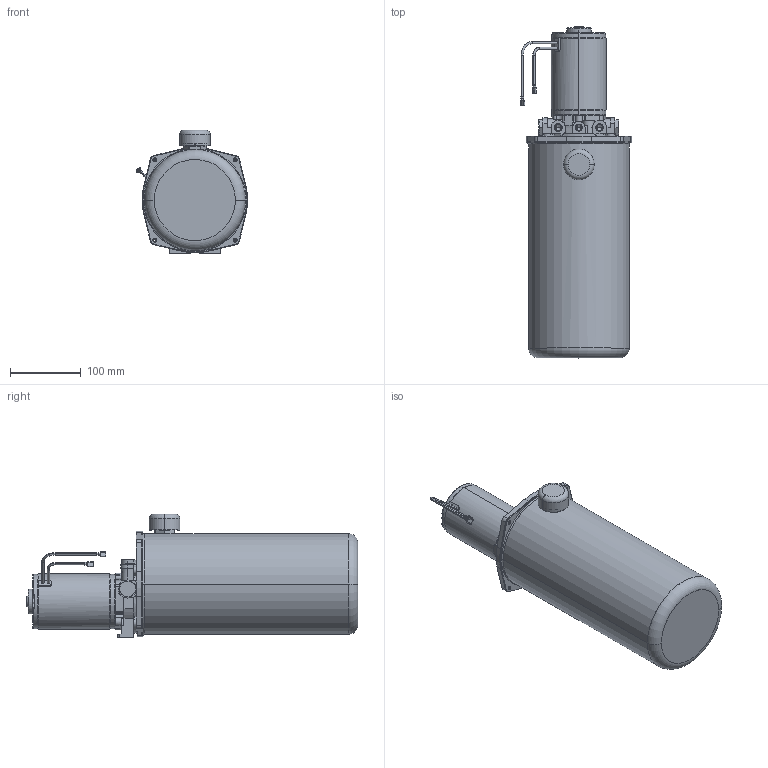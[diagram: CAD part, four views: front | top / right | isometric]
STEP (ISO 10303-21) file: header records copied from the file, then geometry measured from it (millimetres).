
FILE_DESCRIPTION((''),'2;1');
FILE_NAME('108-AE-BE-I_ASM','2011-12-19T',('dctmp01'),('OILDYNE'),'PRO/ENGINEER BY PARAMETRIC TECHNOLOGY CORPORATION, 2005380','PRO/ENGINEER BY PARAMETRIC TECHNOLOGY CORPORATION, 2005380','');
FILE_SCHEMA(('CONFIG_CONTROL_DESIGN'));
Length unit declared in the file: inch
Products named in the file (11): 108_ADAPTER_BLANK; 361182; 410728; 773764_ASM; 366553; 361512; 410586-2; 410586-1; 410586_ASM; 410497; 108-AE-BE-I_ASM
Assembly tree (11 placements, depth 3):
  108-AE-BE-I_ASM
    108_ADAPTER_BLANK
    773764_ASM  x2
      361182
      410728
    366553
    361512
    410586_ASM
      410586-2
      410586-1
    410497
Bounding box: 156.98 x 468.58 x 174.63 mm (x, y, z)
Volume: 1054012.4 mm3; surface area: 455720 mm2
Topology: 10 solids, 10 shells, 1085 faces, 2784 edges, 1754 vertices
Faces by surface type: plane 421, cylinder 388, cone 132, torus 83, bspline 47, sphere 14
Entity records: 35853 total; most frequent: CARTESIAN_POINT 9599, DIRECTION 5624, ORIENTED_EDGE 5416, EDGE_CURVE 2708, AXIS2_PLACEMENT_3D 2149, VERTEX_POINT 1718, VECTOR 1326, LINE 1326
